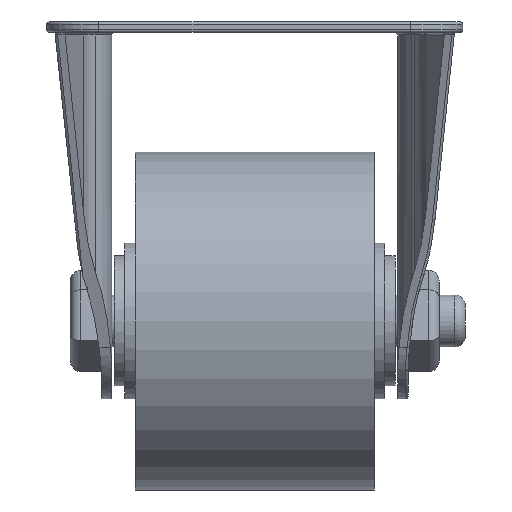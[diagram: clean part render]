
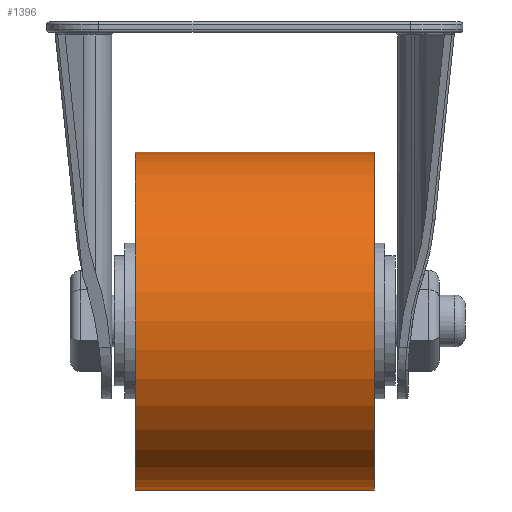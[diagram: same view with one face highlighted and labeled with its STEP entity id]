
A CAD part, left-side view. The second image highlights one B-rep face of the part: STEP entity #1396.
In plain terms, the highlighted cylindrical face has radius 32.5 mm (diameter 65 mm), a full revolution.
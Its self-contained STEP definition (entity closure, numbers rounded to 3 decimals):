
#915=CYLINDRICAL_SURFACE('',#10026,32.5);
#1396=ADVANCED_FACE('',(#2550,#2551),#915,.T.);
#2309=CIRCLE('',#10024,32.5);
#2310=CIRCLE('',#10025,32.5);
#2550=FACE_BOUND('',#3074,.T.);
#2551=FACE_BOUND('',#3075,.T.);
#3074=EDGE_LOOP('',(#5429));
#3075=EDGE_LOOP('',(#5430));
#5429=ORIENTED_EDGE('',*,*,#7942,.T.);
#5430=ORIENTED_EDGE('',*,*,#7943,.F.);
#6675=VERTEX_POINT('',#16602);
#6676=VERTEX_POINT('',#16604);
#7942=EDGE_CURVE('',#6675,#6675,#2309,.T.);
#7943=EDGE_CURVE('',#6676,#6676,#2310,.T.);
#10024=AXIS2_PLACEMENT_3D('',#16601,#12364,#12365);
#10025=AXIS2_PLACEMENT_3D('',#16603,#12366,#12367);
#10026=AXIS2_PLACEMENT_3D('',#16605,#12368,#12369);
#12364=DIRECTION('',(0.,1.,0.));
#12365=DIRECTION('',(1.,0.,0.));
#12366=DIRECTION('',(0.,1.,0.));
#12367=DIRECTION('',(1.,0.,0.));
#12368=DIRECTION('',(0.,-1.,0.));
#12369=DIRECTION('',(1.,0.,0.));
#16601=CARTESIAN_POINT('',(0.,-23.,-57.5));
#16602=CARTESIAN_POINT('',(32.5,-23.,-57.5));
#16603=CARTESIAN_POINT('',(0.,23.,-57.5));
#16604=CARTESIAN_POINT('',(32.5,23.,-57.5));
#16605=CARTESIAN_POINT('',(0.,23.,-57.5));
